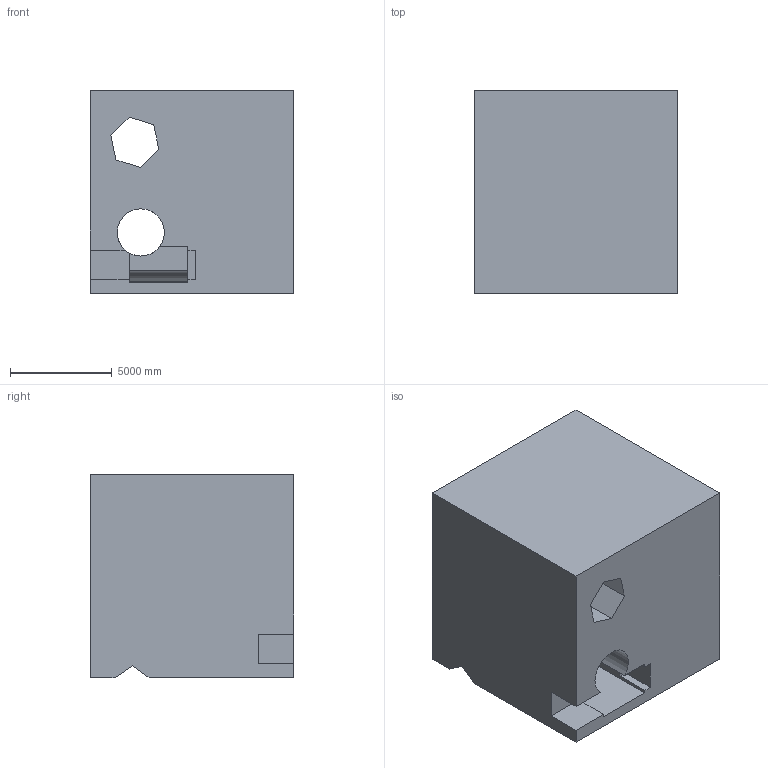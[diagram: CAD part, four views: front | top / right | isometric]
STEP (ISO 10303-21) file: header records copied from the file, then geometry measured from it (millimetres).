
FILE_DESCRIPTION (( 'STEP AP203' ), '1' );
FILE_NAME ('1649.STEP', '2022-08-19T11:21:27', ( 'user' ), ( '' ), 'SwSTEP 2.0', 'SolidWorks 2021', '' );
FILE_SCHEMA (( 'CONFIG_CONTROL_DESIGN' ));
Length unit declared in the file: centimetre
Products named in the file (1): 1649
Bounding box: 10000 x 10000 x 10000 mm (x, y, z)
Volume: 831865182406.9 mm3; surface area: 811560705.5 mm2
Topology: 1 solids, 1 shells, 40 faces, 119 edges, 79 vertices
Faces by surface type: plane 30, cylinder 10
Entity records: 1804 total; most frequent: CARTESIAN_POINT 632, ORIENTED_EDGE 238, DIRECTION 214, EDGE_CURVE 119, LINE 94, VECTOR 94, VERTEX_POINT 79, AXIS2_PLACEMENT_3D 60
